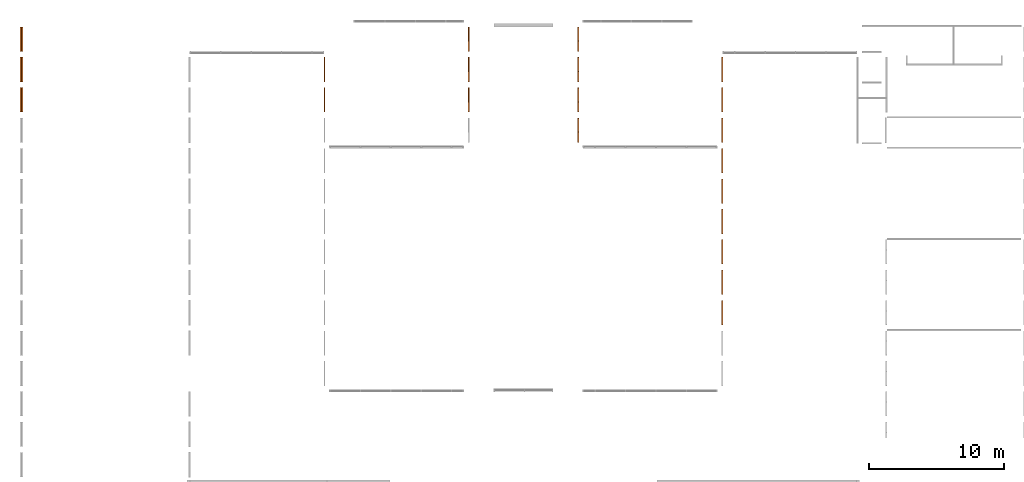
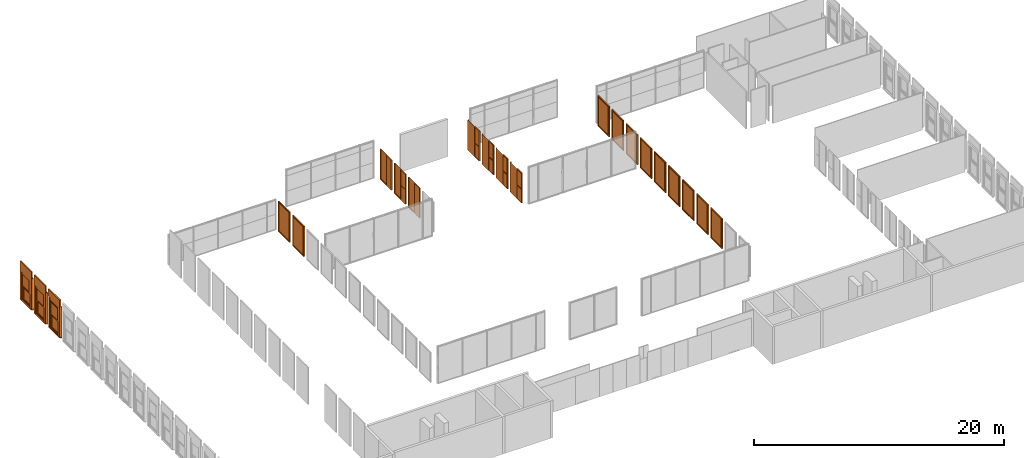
# One storey, part 14 of 15: 21 proxies.
"""IFC2X3 building model written with IfcOpenShell, lengths in millimetres."""

import ifcopenshell
import ifcopenshell.guid

model = None  # the IFC model being written
_history = None  # IfcOwnerHistory: only IFC2X3 demands one
_inside = {}  # id of a spatial element -> (the spatial element, [elements in it])
_under = {}  # id of a project, library or spatial element -> (it, [spatial elements below it])
_declared = {}  # id of a project -> (the project, [libraries it declares])
_typed = {}  # id of a type object -> (the type object, [elements of that type])
_made_of = {}  # id of a material, layer set ... -> (it, [elements and type objects made of it])


def new_model(schema):
    """Start an empty IFC model of exactly this schema.

    Asked for "IFC4X3", IfcOpenShell would pick the latest addendum, in which some entities
    have other attributes; the version numbers below select the first issue.
    IFC2X3 requires an IfcOwnerHistory on every rooted entity: one is made here for all.
    """
    global model, _history
    if schema == "IFC4X3":
        model = ifcopenshell.file(schema_version=(4, 3, 0, 0))
    else:
        model = ifcopenshell.file(schema=schema)
    _inside.clear()
    _under.clear()
    _declared.clear()
    _typed.clear()
    _made_of.clear()
    _history = None
    if model.schema == "IFC2X3":
        org = make("IfcOrganization", Name="unknown")
        user = make(
            "IfcPersonAndOrganization",
            ThePerson=make("IfcPerson", FamilyName="unknown"),
            TheOrganization=org,
        )
        app = make(
            "IfcApplication",
            ApplicationDeveloper=org,
            Version="unknown",
            ApplicationFullName="unknown",
            ApplicationIdentifier="unknown",
        )
        _history = make(
            "IfcOwnerHistory",
            OwningUser=user,
            OwningApplication=app,
            ChangeAction="ADDED",
            CreationDate=0,
        )
    return model


def make(cls, **values):
    """One entity of the class cls with the attributes given. An attribute that is None is left unset."""
    return model.create_entity(
        cls, **{name: value for name, value in values.items() if value is not None}
    )


def entity(cls, *values):
    """Any entity or typed value of the class cls, its attributes in the order of the schema. None: left unset."""
    e = model.create_entity(cls)
    for i, value in enumerate(values):
        if value is not None:
            e[i] = value
    return e


def rooted(cls, **values):
    """An entity with a GlobalId (a new one), such as an element, a storey or a relation."""
    return make(cls, GlobalId=ifcopenshell.guid.new(), OwnerHistory=_history, **values)


def si_unit(unit_type, name, prefix=None):
    """IfcSIUnit, for example si_unit("LENGTHUNIT", "METRE", prefix="MILLI")."""
    return make("IfcSIUnit", UnitType=unit_type, Prefix=prefix, Name=name)


def converted_unit(unit_type, name, factor, base, dimensions=None, offset=None):
    """IfcConversionBasedUnit, such as the inch: factor (a typed value) times the base unit."""
    return make(
        "IfcConversionBasedUnit"
        if offset is None
        else "IfcConversionBasedUnitWithOffset",
        ConversionOffset=offset,
        Dimensions=None
        if dimensions is None
        else entity("IfcDimensionalExponents", *dimensions),
        UnitType=unit_type,
        Name=name,
        ConversionFactor=make(
            "IfcMeasureWithUnit", ValueComponent=factor, UnitComponent=base
        ),
    )


def derived_unit(unit_type, elements):
    """IfcDerivedUnit: a product of units, each with its exponent."""
    return make(
        "IfcDerivedUnit",
        Elements=[
            make("IfcDerivedUnitElement", Unit=unit, Exponent=power)
            for unit, power in elements
        ],
        UnitType=unit_type,
    )


def assignment(units):
    """IfcUnitAssignment: the units of a project."""
    return None if units is None else make("IfcUnitAssignment", Units=units)


def point(xyz):
    """IfcCartesianPoint."""
    return None if xyz is None else make("IfcCartesianPoint", Coordinates=xyz)


def direction(xyz):
    """IfcDirection."""
    return None if xyz is None else make("IfcDirection", DirectionRatios=xyz)


def frame(location, z_axis=None, x_axis=None):
    """IfcAxis2Placement3D, a coordinate frame: its origin and axes. An axis left out is left unset."""
    return make(
        "IfcAxis2Placement3D",
        Location=point(location),
        Axis=direction(z_axis),
        RefDirection=direction(x_axis),
    )


def frame_2d(location, x_axis=None):
    """IfcAxis2Placement2D, a coordinate frame in the plane: its origin and x axis."""
    return make(
        "IfcAxis2Placement2D", Location=point(location), RefDirection=direction(x_axis)
    )


def origin():
    """The frame at (0, 0, 0) with its axes left unset."""
    return frame((0.0, 0.0, 0.0))


def origin_2d_with_axis():
    """The frame at (0, 0) in the plane with the x axis (1, 0) written out."""
    return frame_2d((0.0, 0.0), x_axis=(1.0, 0.0))


def place(relative_to, where):
    """IfcLocalPlacement: puts the frame where relative to a parent placement (None: the world)."""
    return make(
        "IfcLocalPlacement", PlacementRelTo=relative_to, RelativePlacement=where
    )


def context(
    kind, dimensions, precision=None, world=None, true_north=None, identifier=None
):
    """IfcGeometricRepresentationContext, for example the 3D "Model" context."""
    return make(
        "IfcGeometricRepresentationContext",
        ContextIdentifier=identifier,
        ContextType=kind,
        CoordinateSpaceDimension=dimensions,
        Precision=precision,
        WorldCoordinateSystem=world,
        TrueNorth=true_north,
    )


def subcontext(parent, identifier, kind, view, scale=None):
    """IfcGeometricRepresentationSubContext, for example "Body" below "Model"."""
    return make(
        "IfcGeometricRepresentationSubContext",
        ContextIdentifier=identifier,
        ContextType=kind,
        ParentContext=parent,
        TargetScale=scale,
        TargetView=view,
    )


def project(units=None, contexts=None):
    """IfcProject with its units and contexts."""
    return rooted(
        "IfcProject",
        Name="project",
        RepresentationContexts=contexts,
        UnitsInContext=assignment(units),
    )


def spatial(cls, under=None, at=None, **own):
    """A site, building, storey or space (cls), placed at a placement, below another one or the project."""
    s = rooted(cls, ObjectPlacement=at, **own)
    if under is not None:
        _under.setdefault(under.id(), (under, []))[1].append(s)
    return s


def polyline(points):
    """IfcPolyline through the points."""
    return make("IfcPolyline", Points=[point(p) for p in points])


def profile(cls, at=None, kind="AREA", **sizes):
    """A parametric profile (cls). Its sizes go by their IFC names, for example OverallWidth=200.0."""
    return make(cls, ProfileType=kind, Position=at, **sizes)


def rectangle(**sizes):
    """IfcRectangleProfileDef."""
    return profile("IfcRectangleProfileDef", **sizes)


def outline(outer, holes=None, kind="AREA"):
    """IfcArbitraryClosedProfileDef: a profile drawn as a closed curve; with holes, ...WithVoids."""
    if holes is None:
        return make("IfcArbitraryClosedProfileDef", ProfileType=kind, OuterCurve=outer)
    return make(
        "IfcArbitraryProfileDefWithVoids",
        ProfileType=kind,
        OuterCurve=outer,
        InnerCurves=holes,
    )


def extrude(swept, where, along, depth):
    """IfcExtrudedAreaSolid: the profile swept, set in the frame where, extruded along a direction by depth."""
    return make(
        "IfcExtrudedAreaSolid",
        SweptArea=swept,
        Position=where,
        ExtrudedDirection=direction(along),
        Depth=depth,
    )


def shape(context_of_items, identifier, shape_type, items):
    """IfcShapeRepresentation: the items that make up one representation, for example the "Body"."""
    return make(
        "IfcShapeRepresentation",
        ContextOfItems=context_of_items,
        RepresentationIdentifier=identifier,
        RepresentationType=shape_type,
        Items=items,
    )


def source(mapping_origin, context_of_items, identifier, shape_type, items):
    """IfcRepresentationMap: a shape defined once, which mapped items show again and again."""
    return make(
        "IfcRepresentationMap",
        MappingOrigin=mapping_origin,
        MappedRepresentation=shape(context_of_items, identifier, shape_type, items),
    )


def transform(
    local_origin,
    x_axis=None,
    y_axis=None,
    z_axis=None,
    scale=None,
    scale2=None,
    scale3=None,
    uniform=True,
):
    """IfcCartesianTransformationOperator3D, or its non-uniform kind. x_axis, y_axis, z_axis: its Axis1, 2, 3."""
    if uniform:
        return make(
            "IfcCartesianTransformationOperator3D",
            Axis1=direction(x_axis),
            Axis2=direction(y_axis),
            LocalOrigin=point(local_origin),
            Scale=scale,
            Axis3=direction(z_axis),
        )
    return make(
        "IfcCartesianTransformationOperator3DnonUniform",
        Axis1=direction(x_axis),
        Axis2=direction(y_axis),
        LocalOrigin=point(local_origin),
        Scale=scale,
        Axis3=direction(z_axis),
        Scale2=scale2,
        Scale3=scale3,
    )


def mapped(mapping_source, mapping_target):
    """IfcMappedItem: shows the shape of a source again, moved by a transform."""
    return make(
        "IfcMappedItem", MappingSource=mapping_source, MappingTarget=mapping_target
    )


def material(Name=None, Category=None):
    """IfcMaterial."""
    return make("IfcMaterial", Name=Name, Category=Category)


def material_list(materials):
    """IfcMaterialList."""
    return make("IfcMaterialList", Materials=materials)


def made_of(thing, what):
    """Note that an element or type object is made of a material, layer set ...; save() writes the relation."""
    if what is not None:
        _made_of.setdefault(what.id(), (what, []))[1].append(thing)
    return thing


def type_object(cls, material=None, **own):
    """A type object (cls), such as IfcWallType, which elements share."""
    return made_of(rooted(cls, **own), material)


def type_shapes(of_type, sources):
    """Give a type object the sources (RepresentationMaps) that its elements show as mapped items."""
    of_type.RepresentationMaps = sources


def element(
    cls,
    number,
    at=None,
    inside=None,
    cuts=None,
    type_object=None,
    material=None,
    context=None,
    identifier="Body",
    shape_type=None,
    held_by="IfcProductDefinitionShape",
    body=None,
    shapes=None,
    **own,
):
    """One element of the class cls, such as IfcWall. Its Tag is "e" and its number.

    at: its placement. inside: the storey or other place that contains it. cuts: it is an
    opening in that element (IfcRelVoidsElement). A single representation is given by context,
    identifier, shape_type and body (its items); several are given by shapes. held_by: the class
    of the entity that holds the representations. save() writes the other relations.
    """
    e = rooted(cls, Tag="e%d" % number, ObjectPlacement=at, **own)
    if body is not None:
        shapes = [shape(context, identifier, shape_type, body)]
    if shapes is not None:
        e.Representation = make(held_by, Representations=shapes)
    if inside is not None:
        _inside.setdefault(inside.id(), (inside, []))[1].append(e)
    if cuts is not None:
        rooted(
            "IfcRelVoidsElement", RelatingBuildingElement=cuts, RelatedOpeningElement=e
        )
    if type_object is not None:
        _typed.setdefault(type_object.id(), (type_object, []))[1].append(e)
    return made_of(e, material)


def aggregate(whole, parts):
    """IfcRelAggregates: a whole, such as a stair, and the parts it consists of."""
    return rooted("IfcRelAggregates", RelatingObject=whole, RelatedObjects=parts)


def save(model, path):
    """Write the relations noted so far, then the file.

    IfcRelAggregates (storeys below a building ...), IfcRelContainedInSpatialStructure (elements
    in a storey), IfcRelDefinesByType, IfcRelAssociatesMaterial and IfcRelDeclares: one each for
    every whole, place, type object, material and project.
    """
    for whole, parts in _under.values():
        aggregate(whole, parts)
    for where, things in _inside.values():
        rooted(
            "IfcRelContainedInSpatialStructure",
            RelatedElements=things,
            RelatingStructure=where,
        )
    for kind, things in _typed.values():
        rooted("IfcRelDefinesByType", RelatedObjects=things, RelatingType=kind)
    for what, things in _made_of.values():
        rooted("IfcRelAssociatesMaterial", RelatedObjects=things, RelatingMaterial=what)
    for by, libraries in _declared.values():
        rooted("IfcRelDeclares", RelatingContext=by, RelatedDefinitions=libraries)
    model.write(path)


model = new_model("IFC2X3")

# Units and contexts
model_context = context("Model", 3, precision=0.01, world=origin(), true_north=direction((6.12303176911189e-17, 1.0)))
body_context = subcontext(model_context, "Body", "Model", "MODEL_VIEW")
ifc_project = project(units=[si_unit("LENGTHUNIT", "METRE", prefix="MILLI"), si_unit("AREAUNIT", "SQUARE_METRE"), si_unit("VOLUMEUNIT", "CUBIC_METRE"), converted_unit("PLANEANGLEUNIT", "DEGREE", entity("IfcRatioMeasure", 0.0174532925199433), si_unit("PLANEANGLEUNIT", "RADIAN"), dimensions=[0, 0, 0, 0, 0, 0, 0]), si_unit("MASSUNIT", "GRAM", prefix="KILO"), derived_unit("MASSDENSITYUNIT", [(si_unit("MASSUNIT", "GRAM", prefix="KILO"), 1), (si_unit("LENGTHUNIT", "METRE"), -3)]), derived_unit("MOMENTOFINERTIAUNIT", [(si_unit("LENGTHUNIT", "METRE"), 4)]), si_unit("TIMEUNIT", "SECOND"), si_unit("FREQUENCYUNIT", "HERTZ"), si_unit("THERMODYNAMICTEMPERATUREUNIT", "DEGREE_CELSIUS"), derived_unit("THERMALTRANSMITTANCEUNIT", [(si_unit("MASSUNIT", "GRAM", prefix="KILO"), 1), (si_unit("THERMODYNAMICTEMPERATUREUNIT", "KELVIN"), -1), (si_unit("TIMEUNIT", "SECOND"), -3)]), derived_unit("VOLUMETRICFLOWRATEUNIT", [(si_unit("LENGTHUNIT", "METRE"), 3), (si_unit("TIMEUNIT", "SECOND"), -1)]), si_unit("ELECTRICCURRENTUNIT", "AMPERE"), si_unit("ELECTRICVOLTAGEUNIT", "VOLT"), si_unit("POWERUNIT", "WATT"), si_unit("FORCEUNIT", "NEWTON", prefix="KILO"), si_unit("ILLUMINANCEUNIT", "LUX"), si_unit("LUMINOUSFLUXUNIT", "LUMEN"), si_unit("LUMINOUSINTENSITYUNIT", "CANDELA"), derived_unit("USERDEFINED", [(si_unit("MASSUNIT", "GRAM", prefix="KILO"), -1), (si_unit("LENGTHUNIT", "METRE"), -2), (si_unit("TIMEUNIT", "SECOND"), 3), (si_unit("LUMINOUSFLUXUNIT", "LUMEN"), 1)]), derived_unit("LINEARVELOCITYUNIT", [(si_unit("LENGTHUNIT", "METRE"), 1), (si_unit("TIMEUNIT", "SECOND"), -1)]), si_unit("PRESSUREUNIT", "PASCAL"), derived_unit("USERDEFINED", [(si_unit("LENGTHUNIT", "METRE"), -2), (si_unit("MASSUNIT", "GRAM", prefix="KILO"), 1), (si_unit("TIMEUNIT", "SECOND"), -2)]), derived_unit("LINEARFORCEUNIT", [(si_unit("MASSUNIT", "GRAM", prefix="KILO"), 1), (si_unit("LENGTHUNIT", "METRE"), 1), (si_unit("TIMEUNIT", "SECOND"), -2), (si_unit("LENGTHUNIT", "METRE"), -1)]), derived_unit("PLANARFORCEUNIT", [(si_unit("MASSUNIT", "GRAM", prefix="KILO"), 1), (si_unit("LENGTHUNIT", "METRE"), 1), (si_unit("TIMEUNIT", "SECOND"), -2), (si_unit("LENGTHUNIT", "METRE"), -2)])], contexts=[model_context])

# Site, building, storey
site_placement = place(None, frame((10627.5135316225, 21939.0796949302, 0.0)))
site = spatial("IfcSite", under=ifc_project, at=site_placement, Name="Default", CompositionType="ELEMENT")
building_placement = place(site_placement, origin())
building = spatial("IfcBuilding", under=site, at=building_placement, CompositionType="ELEMENT")
storey_placement = place(building_placement, origin())
storey = spatial("IfcBuildingStorey", under=building, at=storey_placement, Name="RDC", CompositionType="ELEMENT", Elevation=0.0)

# Proxies
ifc_material_1 = material(Name="PVC, Flexible")
ifc_material_2 = material(Name="Glass")
ifc_material_list_1 = material_list([ifc_material_1, ifc_material_2])
building_element_proxy_type_1 = type_object("IfcBuildingElementProxyType", Name="FENETRE.dwg:Fenetre ext 296+70", PredefinedType="NOTDEFINED", material=ifc_material_1)
shared_shape_1 = source(origin(), body_context, "Body", "SweptSolid", [
    extrude(rectangle(XDim=1829.99999999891, YDim=112.500043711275, at=origin_2d_with_axis()), frame((-10.4189092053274, 56.2500218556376, 2960.0), z_axis=(0.0, 0.0, 1.0), x_axis=(-1.0, 0.0, 0.0)), (0.0, 0.0, 1.0), 700.0),
    extrude(outline(polyline([(-68.5678005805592, -14.3879872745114), (-72.4883397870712, -33.9999574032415), (-67.5853472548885, -34.9800922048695), (-63.9024543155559, -16.5569155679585), (44.3087537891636, -16.5569155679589), (54.1101018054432, 32.4730097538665), (40.6268723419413, 35.1683804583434), (40.1368049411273, 32.7168841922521), (51.168538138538, 30.5115808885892), (42.1928709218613, -14.3879872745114), (-68.5678005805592, -14.3879872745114)])), frame((-925.418909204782, 66.917049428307, -47.5499763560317), z_axis=(-1.0, 0.0, 0.0), x_axis=(0.0, 0.980598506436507, -0.196026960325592)), (0.0, 0.0, -1.0), 1829.99999999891),
    extrude(outline(polyline([(-64.667066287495, -56.2500218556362), (66.1666874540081, -56.2500218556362), (66.1666874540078, 56.2500218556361), (-67.6663086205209, 56.2500218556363), (-64.667066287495, -56.2500218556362)])), frame((-925.418909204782, -56.2500218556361, -63.833312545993), z_axis=(1.0, 0.0, 0.0), x_axis=(0.0, 0.0, -1.0)), (0.0, 0.0, 1.0), 1829.99999999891),
    extrude(outline(polyline([(-55.5555555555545, 97.0007159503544), (-55.5555555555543, -5.85738417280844), (-55.5555555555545, -95.357341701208), (-45.5555555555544, -95.3573417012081), (-45.5555555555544, -105.357341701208), (174.444444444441, -105.357341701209), (174.444444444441, 106.642659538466), (-45.5555555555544, 106.642659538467), (-45.5555555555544, 97.0007159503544), (-55.5555555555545, 97.0007159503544)])), frame((849.025535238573, 5.85738417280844, 0.0), z_axis=(0.0, 0.0, -1.0), x_axis=(-1.0, 0.0, 0.0)), (0.0, 0.0, -1.0), 2960.0),
    extrude(rectangle(XDim=199.499957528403, YDim=1369.99999999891, at=origin_2d_with_axis()), frame((-10.4189092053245, 0.250021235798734, 2730.0), z_axis=(0.0, 0.0, 1.0), x_axis=(0.0, 1.0, 0.0)), (0.0, 0.0, 1.0), 230.000000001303),
    extrude(outline(polyline([(-97.0007159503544, -55.5555555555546), (5.85738417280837, -55.5555555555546), (95.357341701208, -55.5555555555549), (95.357341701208, -45.5555555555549), (105.357341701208, -45.5555555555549), (105.357341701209, 174.44444444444), (-106.642659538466, 174.444444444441), (-106.642659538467, -45.5555555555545), (-97.0007159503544, -45.5555555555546), (-97.0007159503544, -55.5555555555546)])), frame((-869.863353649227, 5.85738417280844, 0.0), z_axis=(0.0, 0.0, 1.0), x_axis=(0.0, -1.0, 0.0)), (0.0, 0.0, 1.0), 2960.0),
    extrude(rectangle(XDim=1.0, YDim=1079.99999999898, at=origin_2d_with_axis()), frame((-10.4189092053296, -19.5, 130.0), z_axis=(0.0, 0.0, 1.0), x_axis=(0.0, 1.0, 0.0)), (0.0, 0.0, 1.0), 1120.00000000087),
    extrude(rectangle(XDim=1.0, YDim=1079.99999999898, at=frame_2d((-4.21884749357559e-15, 0.0), x_axis=(1.0, 0.0))), frame((-10.4189092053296, -30.5, 130.0), z_axis=(0.0, 0.0, 1.0), x_axis=(0.0, 1.0, 0.0)), (0.0, 0.0, 1.0), 1120.00000000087),
    extrude(rectangle(XDim=1.0, YDim=1079.99999999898, at=frame_2d((-4.21884749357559e-15, 0.0), x_axis=(1.0, 0.0))), frame((-10.4189092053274, 69.5, 1465.0), z_axis=(0.0, 0.0, 1.0), x_axis=(0.0, 1.0, 0.0)), (0.0, 0.0, 1.0), 1120.0),
    extrude(rectangle(XDim=0.999999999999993, YDim=1079.99999999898, at=frame_2d((-8.46545056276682e-15, 0.0), x_axis=(1.0, 0.0))), frame((-10.4189092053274, 80.5, 1465.0), z_axis=(0.0, 0.0, 1.0), x_axis=(0.0, 1.0, 0.0)), (0.0, 0.0, 1.0), 1120.00000000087),
    extrude(outline(polyline([(-685.0, -1365.0), (0.0, -1365.0), (685.0, -1365.0), (685.0, 1365.0), (0.0, 1365.0), (-685.0, 1365.0), (-685.0, -1365.0)]), holes=[polyline([(-640.0, -1320.0), (-640.0, -45.0), (0.0, -45.0), (640.0, -45.0), (640.0, -1320.0), (0.0, -1320.0), (-640.0, -1320.0)]), polyline([(-640.0, 40.0), (-640.0, 1315.0), (0.0, 1315.0), (640.0, 1315.0), (640.0, 40.0), (0.0, 40.0), (-640.0, 40.0)])]), frame((-10.4189092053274, 0.0, 1365.0), z_axis=(0.0, 1.0, 0.0), x_axis=(1.0, 0.0, 0.0)), (0.0, 0.0, 1.0), 50.0),
    extrude(outline(polyline([(-655.0, -667.500000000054), (655.0, -667.500000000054), (655.0, 667.500000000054), (-655.0, 667.500000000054), (-655.0, -667.500000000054)]), holes=[polyline([(-540.0, 552.500000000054), (540.0, 552.500000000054), (540.0, -567.500000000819), (-540.0, -567.500000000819), (-540.0, 552.500000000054)])]), frame((-10.4189092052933, -50.0, 697.500000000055), z_axis=(0.0, 1.0, 0.0), x_axis=(-1.0, 0.0, 0.0)), (0.0, 0.0, 1.0), 50.0),
    extrude(outline(polyline([(-655.0, -667.500000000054), (655.0, -667.500000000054), (655.0, 667.500000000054), (-655.0, 667.500000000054), (-655.0, -667.500000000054)]), holes=[polyline([(-540.0, 552.500000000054), (540.0, 552.500000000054), (540.0, -567.500000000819), (-540.0, -567.500000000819), (-540.0, 552.500000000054)])]), frame((-10.4189092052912, 50.0, 2032.50000000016), z_axis=(0.0, 1.0, 0.0), x_axis=(-1.0, 0.0, 0.0)), (0.0, 0.0, 1.0), 50.0),
])
type_shapes(building_element_proxy_type_1, [shared_shape_1])
proxy_1_placement = place(storey_placement, frame((-10728.9017825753, 15361.3392142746, 0.0), z_axis=(0.0, 0.0, 1.0), x_axis=(0.0, 1.0, 0.0)))
element("IfcBuildingElementProxy", 1, at=proxy_1_placement, inside=storey, type_object=building_element_proxy_type_1, material=ifc_material_list_1, Name="FENETRE.dwg:Fenetre ext 296+70", ObjectType="FENETRE.dwg:Fenetre ext 296+70", context=body_context, shape_type="MappedRepresentation", body=[
    mapped(shared_shape_1, transform((0.0, 0.0, 0.0), scale=1.0)),
])
ifc_material_list_2 = material_list([ifc_material_1, ifc_material_2])
proxy_2_placement = place(storey_placement, frame((-10728.9017825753, 13101.3392142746, 0.0), z_axis=(0.0, 0.0, 1.0), x_axis=(0.0, 1.0, 0.0)))
element("IfcBuildingElementProxy", 2, at=proxy_2_placement, inside=storey, type_object=building_element_proxy_type_1, material=ifc_material_list_2, Name="FENETRE.dwg:Fenetre ext 296+70", ObjectType="FENETRE.dwg:Fenetre ext 296+70", context=body_context, shape_type="MappedRepresentation", body=[
    mapped(shared_shape_1, transform((0.0, 0.0, 0.0), scale=1.0)),
])
ifc_material_list_3 = material_list([ifc_material_1, ifc_material_2])
proxy_3_placement = place(storey_placement, frame((-10728.9017825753, 10841.3392142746, 0.0), z_axis=(0.0, 0.0, 1.0), x_axis=(0.0, 1.0, 0.0)))
element("IfcBuildingElementProxy", 3, at=proxy_3_placement, inside=storey, type_object=building_element_proxy_type_1, material=ifc_material_list_3, Name="FENETRE.dwg:Fenetre ext 296+70", ObjectType="FENETRE.dwg:Fenetre ext 296+70", context=body_context, shape_type="MappedRepresentation", body=[
    mapped(shared_shape_1, transform((0.0, 0.0, 0.0), scale=1.0)),
])
ifc_material_3 = material(Name="Softwood, Finish Black")
ifc_material_list_4 = material_list([ifc_material_2, ifc_material_3])
building_element_proxy_type_2 = type_object("IfcBuildingElementProxyType", Name="Cloisin vitre bois vitrage P-F 3-4H 498x296:Cloisin vitre bois vitrage P-F 3-4H 498x296", PredefinedType="NOTDEFINED", material=ifc_material_2)
shared_shape_2 = source(origin(), body_context, "Body", "SweptSolid", [
    extrude(rectangle(XDim=4.96346169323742, YDim=1750.0, at=frame_2d((-4.21884749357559e-15, 1.13686837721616e-13), x_axis=(1.0, 0.0))), frame((0.0, -47.4817308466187, 40.0), z_axis=(0.0, 0.0, 1.0), x_axis=(0.0, 1.0, 0.0)), (0.0, 0.0, 1.0), 2880.0),
    extrude(rectangle(XDim=5.0, YDim=1750.0, at=frame_2d((-1.99840144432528e-15, 1.13686837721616e-13), x_axis=(1.0, 0.0))), frame((0.0, -32.5, 40.0), z_axis=(0.0, 0.0, 1.0), x_axis=(0.0, 1.0, 0.0)), (0.0, 0.0, 1.0), 2880.0),
    extrude(rectangle(XDim=5.0, YDim=1750.0, at=frame_2d((-1.99840144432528e-15, 1.13686837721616e-13), x_axis=(1.0, 0.0))), frame((0.0, -32.5, 40.0), z_axis=(0.0, 0.0, 1.0), x_axis=(0.0, 1.0, 0.0)), (0.0, 0.0, 1.0), 2880.0),
    extrude(outline(polyline([(-1440.0, -875.0), (1440.0, -875.0), (1440.0, 875.0), (-1440.0, 875.0), (-1440.0, -875.0)]), holes=[polyline([(1400.0, 835.0), (1400.0, -783.916998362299), (-1400.0, -783.916998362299), (-1400.0, 835.0), (1400.0, 835.0)])]), frame((0.0, -100.0, 1480.0), z_axis=(0.0, 1.0, 0.0), x_axis=(0.0, 0.0, -1.0)), (0.0, 0.0, 1.0), 50.0365383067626),
    extrude(outline(polyline([(-1480.0, -915.0), (1480.0, -915.0), (1480.0, 915.0), (-1480.0, 915.0), (-1480.0, -915.0)]), holes=[polyline([(-1440.0, -875.0), (-1440.0, 875.0), (1440.0, 875.0), (1440.0, -875.0), (-1440.0, -875.0)])]), frame((0.0, -100.0, 1480.0), z_axis=(0.0, 1.0, 0.0), x_axis=(0.0, 0.0, -1.0)), (0.0, 0.0, 1.0), 70.0),
    extrude(outline(polyline([(-1480.0, -915.0), (1480.0, -915.0), (1480.0, 0.0), (1480.0, 915.0), (-1480.0, 915.0), (-1480.0, 0.0), (-1480.0, -915.0)]), holes=[polyline([(1400.0, 0.0), (1400.0, -835.0), (-1400.0, -835.0), (-1400.0, 0.0), (-1400.0, 835.0), (1400.0, 835.0), (1400.0, 0.0)])]), frame((0.0, -30.0, 1480.0), z_axis=(0.0, 1.0, 0.0), x_axis=(0.0, 0.0, 1.0)), (0.0, 0.0, 1.0), 30.0),
])
type_shapes(building_element_proxy_type_2, [shared_shape_2])
proxy_4_placement = place(storey_placement, frame((41406.8614683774, 13090.9203050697, 0.0), z_axis=(0.0, 0.0, 1.0), x_axis=(0.0, -1.0, 0.0)))
element("IfcBuildingElementProxy", 4, at=proxy_4_placement, inside=storey, type_object=building_element_proxy_type_2, material=ifc_material_list_4, Name="Cloisin vitre bois vitrage P-F 3-4H 498x296:Cloisin vitre bois vitrage P-F 3-4H 498x296", ObjectType="Cloisin vitre bois vitrage P-F 3-4H 498x296:Cloisin vitre bois vitrage P-F 3-4H 498x296", context=body_context, shape_type="MappedRepresentation", body=[
    mapped(shared_shape_2, transform((0.0, 0.0, 0.0), scale=1.0)),
])
ifc_material_list_5 = material_list([ifc_material_2, ifc_material_3])
proxy_5_placement = place(storey_placement, frame((41406.8614683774, 10830.9203050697, 0.0), z_axis=(0.0, 0.0, 1.0), x_axis=(0.0, -1.0, 0.0)))
element("IfcBuildingElementProxy", 5, at=proxy_5_placement, inside=storey, type_object=building_element_proxy_type_2, material=ifc_material_list_5, Name="Cloisin vitre bois vitrage P-F 3-4H 498x296:Cloisin vitre bois vitrage P-F 3-4H 498x296", ObjectType="Cloisin vitre bois vitrage P-F 3-4H 498x296:Cloisin vitre bois vitrage P-F 3-4H 498x296", context=body_context, shape_type="MappedRepresentation", body=[
    mapped(shared_shape_2, transform((0.0, 0.0, 0.0), scale=1.0)),
])
ifc_material_list_6 = material_list([ifc_material_2, ifc_material_3])
proxy_6_placement = place(storey_placement, frame((41406.8614683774, 8570.92030506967, 0.0), z_axis=(0.0, 0.0, 1.0), x_axis=(0.0, -1.0, 0.0)))
element("IfcBuildingElementProxy", 6, at=proxy_6_placement, inside=storey, type_object=building_element_proxy_type_2, material=ifc_material_list_6, Name="Cloisin vitre bois vitrage P-F 3-4H 498x296:Cloisin vitre bois vitrage P-F 3-4H 498x296", ObjectType="Cloisin vitre bois vitrage P-F 3-4H 498x296:Cloisin vitre bois vitrage P-F 3-4H 498x296", context=body_context, shape_type="MappedRepresentation", body=[
    mapped(shared_shape_2, transform((0.0, 0.0, 0.0), scale=1.0)),
])
ifc_material_list_7 = material_list([ifc_material_2, ifc_material_3])
proxy_7_placement = place(storey_placement, frame((41406.8614683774, 6310.92030506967, 0.0), z_axis=(0.0, 0.0, 1.0), x_axis=(0.0, -1.0, 0.0)))
element("IfcBuildingElementProxy", 7, at=proxy_7_placement, inside=storey, type_object=building_element_proxy_type_2, material=ifc_material_list_7, Name="Cloisin vitre bois vitrage P-F 3-4H 498x296:Cloisin vitre bois vitrage P-F 3-4H 498x296", ObjectType="Cloisin vitre bois vitrage P-F 3-4H 498x296:Cloisin vitre bois vitrage P-F 3-4H 498x296", context=body_context, shape_type="MappedRepresentation", body=[
    mapped(shared_shape_2, transform((0.0, 0.0, 0.0), scale=1.0)),
])
ifc_material_list_8 = material_list([ifc_material_2, ifc_material_3])
proxy_8_placement = place(storey_placement, frame((41406.8614683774, 4050.92030506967, 0.0), z_axis=(0.0, 0.0, 1.0), x_axis=(0.0, -1.0, 0.0)))
element("IfcBuildingElementProxy", 8, at=proxy_8_placement, inside=storey, type_object=building_element_proxy_type_2, material=ifc_material_list_8, Name="Cloisin vitre bois vitrage P-F 3-4H 498x296:Cloisin vitre bois vitrage P-F 3-4H 498x296", ObjectType="Cloisin vitre bois vitrage P-F 3-4H 498x296:Cloisin vitre bois vitrage P-F 3-4H 498x296", context=body_context, shape_type="MappedRepresentation", body=[
    mapped(shared_shape_2, transform((0.0, 0.0, 0.0), scale=1.0)),
])
ifc_material_list_9 = material_list([ifc_material_2, ifc_material_3])
proxy_9_placement = place(storey_placement, frame((41406.8614683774, 1790.92030506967, 0.0), z_axis=(0.0, 0.0, 1.0), x_axis=(0.0, -1.0, 0.0)))
element("IfcBuildingElementProxy", 9, at=proxy_9_placement, inside=storey, type_object=building_element_proxy_type_2, material=ifc_material_list_9, Name="Cloisin vitre bois vitrage P-F 3-4H 498x296:Cloisin vitre bois vitrage P-F 3-4H 498x296", ObjectType="Cloisin vitre bois vitrage P-F 3-4H 498x296:Cloisin vitre bois vitrage P-F 3-4H 498x296", context=body_context, shape_type="MappedRepresentation", body=[
    mapped(shared_shape_2, transform((0.0, 0.0, 0.0), scale=1.0)),
])
ifc_material_list_10 = material_list([ifc_material_2, ifc_material_3])
proxy_10_placement = place(storey_placement, frame((41406.8614683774, -469.079694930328, 0.0), z_axis=(0.0, 0.0, 1.0), x_axis=(0.0, -1.0, 0.0)))
element("IfcBuildingElementProxy", 10, at=proxy_10_placement, inside=storey, type_object=building_element_proxy_type_2, material=ifc_material_list_10, Name="Cloisin vitre bois vitrage P-F 3-4H 498x296:Cloisin vitre bois vitrage P-F 3-4H 498x296", ObjectType="Cloisin vitre bois vitrage P-F 3-4H 498x296:Cloisin vitre bois vitrage P-F 3-4H 498x296", context=body_context, shape_type="MappedRepresentation", body=[
    mapped(shared_shape_2, transform((0.0, 0.0, 0.0), scale=1.0)),
])
ifc_material_list_11 = material_list([ifc_material_2, ifc_material_3])
proxy_11_placement = place(storey_placement, frame((41406.8614683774, -2729.07969493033, 0.0), z_axis=(0.0, 0.0, 1.0), x_axis=(0.0, -1.0, 0.0)))
element("IfcBuildingElementProxy", 11, at=proxy_11_placement, inside=storey, type_object=building_element_proxy_type_2, material=ifc_material_list_11, Name="Cloisin vitre bois vitrage P-F 3-4H 498x296:Cloisin vitre bois vitrage P-F 3-4H 498x296", ObjectType="Cloisin vitre bois vitrage P-F 3-4H 498x296:Cloisin vitre bois vitrage P-F 3-4H 498x296", context=body_context, shape_type="MappedRepresentation", body=[
    mapped(shared_shape_2, transform((0.0, 0.0, 0.0), scale=1.0)),
])
ifc_material_list_12 = material_list([ifc_material_2, ifc_material_3])
proxy_12_placement = place(storey_placement, frame((41406.8614683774, -4989.07969493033, 0.0), z_axis=(0.0, 0.0, 1.0), x_axis=(0.0, -1.0, 0.0)))
element("IfcBuildingElementProxy", 12, at=proxy_12_placement, inside=storey, type_object=building_element_proxy_type_2, material=ifc_material_list_12, Name="Cloisin vitre bois vitrage P-F 3-4H 498x296:Cloisin vitre bois vitrage P-F 3-4H 498x296", ObjectType="Cloisin vitre bois vitrage P-F 3-4H 498x296:Cloisin vitre bois vitrage P-F 3-4H 498x296", context=body_context, shape_type="MappedRepresentation", body=[
    mapped(shared_shape_2, transform((0.0, 0.0, 0.0), scale=1.0)),
])
ifc_material_list_13 = material_list([ifc_material_2, ifc_material_3])
building_element_proxy_type_3 = type_object("IfcBuildingElementProxyType", Name="Cloisin vitre bois vitrage P-F 3-4H 498x296:Cloisin vitre bois vitrage P-F 3-4H 498x296", PredefinedType="NOTDEFINED", material=ifc_material_2)
shared_shape_3 = source(origin(), body_context, "Body", "SweptSolid", [
    extrude(rectangle(XDim=1750.0, YDim=4.96346169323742, at=frame_2d((0.0, -4.21884749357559e-15), x_axis=(1.0, 0.0))), frame((0.0, 47.4817308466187, 40.0), z_axis=(0.0, 0.0, 1.0), x_axis=(-1.0, 0.0, 0.0)), (0.0, 0.0, 1.0), 2880.0),
    extrude(rectangle(XDim=1750.0, YDim=5.0, at=frame_2d((0.0, 1.99840144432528e-15), x_axis=(1.0, 0.0))), frame((0.0, 32.5, 40.0), z_axis=(0.0, 0.0, 1.0), x_axis=(-1.0, 0.0, 0.0)), (0.0, 0.0, 1.0), 2880.0),
    extrude(rectangle(XDim=1750.0, YDim=5.0, at=frame_2d((0.0, 1.99840144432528e-15), x_axis=(1.0, 0.0))), frame((0.0, 32.5, 40.0), z_axis=(0.0, 0.0, 1.0), x_axis=(-1.0, 0.0, 0.0)), (0.0, 0.0, 1.0), 2880.0),
    extrude(outline(polyline([(-1440.0, -875.0), (1440.0, -875.0), (1440.0, 875.0), (-1440.0, 875.0), (-1440.0, -875.0)]), holes=[polyline([(1400.0, 835.0), (1400.0, -783.916998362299), (-1400.0, -783.916998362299), (-1400.0, 835.0), (1400.0, 835.0)])]), frame((0.0, 49.9634616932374, 1480.0), z_axis=(0.0, 1.0, 0.0), x_axis=(0.0, 0.0, -1.0)), (0.0, 0.0, 1.0), 50.0365383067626),
    extrude(outline(polyline([(-1480.0, -915.0), (1480.0, -915.0), (1480.0, 915.0), (-1480.0, 915.0), (-1480.0, -915.0)]), holes=[polyline([(-1440.0, -875.0), (-1440.0, 875.0), (1440.0, 875.0), (1440.0, -875.0), (-1440.0, -875.0)])]), frame((0.0, 30.0, 1480.0), z_axis=(0.0, 1.0, 0.0), x_axis=(0.0, 0.0, -1.0)), (0.0, 0.0, 1.0), 70.0),
    extrude(outline(polyline([(-1480.0, -915.0), (1480.0, -915.0), (1480.0, 0.0), (1480.0, 915.0), (-1480.0, 915.0), (-1480.0, 0.0), (-1480.0, -915.0)]), holes=[polyline([(1400.0, 0.0), (1400.0, -835.0), (-1400.0, -835.0), (-1400.0, 0.0), (-1400.0, 835.0), (1400.0, 835.0), (1400.0, 0.0)])]), frame((0.0, 0.0, 1480.0), z_axis=(0.0, 1.0, 0.0), x_axis=(0.0, 0.0, 1.0)), (0.0, 0.0, 1.0), 30.0),
])
type_shapes(building_element_proxy_type_3, [shared_shape_3])
proxy_13_placement = place(storey_placement, frame((11748.1114683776, 13090.9203050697, 0.0), z_axis=(0.0, 0.0, 1.0), x_axis=(0.0, -1.0, 0.0)))
element("IfcBuildingElementProxy", 13, at=proxy_13_placement, inside=storey, type_object=building_element_proxy_type_3, material=ifc_material_list_13, Name="Cloisin vitre bois vitrage P-F 3-4H 498x296:Cloisin vitre bois vitrage P-F 3-4H 498x296", ObjectType="Cloisin vitre bois vitrage P-F 3-4H 498x296:Cloisin vitre bois vitrage P-F 3-4H 498x296", context=body_context, shape_type="MappedRepresentation", body=[
    mapped(shared_shape_3, transform((0.0, 0.0, 0.0), scale=1.0)),
])
ifc_material_list_14 = material_list([ifc_material_2, ifc_material_3])
proxy_14_placement = place(storey_placement, frame((11748.1114683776, 10830.9203050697, 0.0), z_axis=(0.0, 0.0, 1.0), x_axis=(0.0, -1.0, 0.0)))
element("IfcBuildingElementProxy", 14, at=proxy_14_placement, inside=storey, type_object=building_element_proxy_type_3, material=ifc_material_list_14, Name="Cloisin vitre bois vitrage P-F 3-4H 498x296:Cloisin vitre bois vitrage P-F 3-4H 498x296", ObjectType="Cloisin vitre bois vitrage P-F 3-4H 498x296:Cloisin vitre bois vitrage P-F 3-4H 498x296", context=body_context, shape_type="MappedRepresentation", body=[
    mapped(shared_shape_3, transform((0.0, 0.0, 0.0), scale=1.0)),
])
ifc_material_4 = material(Name="Plywood, Sheathing")
ifc_material_list_15 = material_list([ifc_material_4, ifc_material_2])
building_element_proxy_type_4 = type_object("IfcBuildingElementProxyType", Name="Porte noire:Porte noire", PredefinedType="NOTDEFINED", material=ifc_material_4)
shared_shape_4 = source(origin(), body_context, "Body", "SweptSolid", [
    extrude(rectangle(XDim=100.0, YDim=23.0000000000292, at=origin_2d_with_axis()), frame((-950.918997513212, -50.0, 8.73189890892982), z_axis=(0.0, 0.0, 1.0), x_axis=(0.0, 1.0, 0.0)), (0.0, 0.0, 1.0), 2933.34951039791),
    extrude(rectangle(XDim=19.0, YDim=1038.0, at=frame_2d((7.99360577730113e-15, 0.0), x_axis=(1.0, 0.0))), frame((-420.418997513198, -87.5, 43.7318989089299), z_axis=(0.0, 0.0, 1.0), x_axis=(0.0, 1.0, 0.0)), (0.0, 0.0, 1.0), 2898.5),
    extrude(rectangle(XDim=100.0, YDim=1775.0, at=origin_2d_with_axis()), frame((-51.9189975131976, -50.0, 8.73189890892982), z_axis=(0.0, 0.0, 1.0), x_axis=(0.0, 1.0, 0.0)), (0.0, 0.0, 1.0), 35.0000000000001),
    extrude(rectangle(XDim=100.0, YDim=35.0000000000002, at=origin_2d_with_axis()), frame((853.081002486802, -50.0, 8.73189890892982), z_axis=(0.0, 0.0, 1.0), x_axis=(0.0, 1.0, 0.0)), (0.0, 0.0, 1.0), 2898.5),
    extrude(rectangle(XDim=100.0, YDim=740.0, at=origin_2d_with_axis()), frame((500.581002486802, -50.0, 2907.23189890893), z_axis=(0.0, 0.0, 1.0), x_axis=(0.0, 1.0, 0.0)), (0.0, 0.0, 1.0), 35.0000000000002),
    extrude(rectangle(XDim=100.0, YDim=31.9999999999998, at=origin_2d_with_axis()), frame((114.581002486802, -50.0, 43.7318989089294), z_axis=(0.0, 0.0, 1.0), x_axis=(0.0, 1.0, 0.0)), (0.0, 0.0, 1.0), 2898.5),
    extrude(rectangle(XDim=100.0, YDim=705.0, at=origin_2d_with_axis()), frame((483.081002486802, -50.0, 1343.73189890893), z_axis=(0.0, 0.0, 1.0), x_axis=(0.0, 1.0, 0.0)), (0.0, 0.0, 1.0), 55.0),
    extrude(outline(polyline([(-352.5, -650.0), (352.5, -650.0), (352.5, 650.0), (-352.5, 650.0), (-352.5, -650.0)]), holes=[polyline([(342.5, 640.0), (342.5, -640.0), (-342.5, -640.0), (-342.5, 640.0), (342.5, 640.0)])]), frame((483.081002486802, -80.0, 693.73189890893), z_axis=(0.0, 1.0, 0.0), x_axis=(1.0, 0.0, 0.0)), (0.0, 0.0, 1.0), 70.0),
    extrude(outline(polyline([(-754.25, -352.5), (754.25, -352.5), (754.25, 352.5), (-754.25, 352.5), (-754.25, -352.5)]), holes=[polyline([(744.25, 342.5), (744.25, -342.5), (-744.25, -342.5), (-744.25, 342.5), (744.25, 342.5)])]), frame((483.081002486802, -80.0, 2152.98189890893), z_axis=(0.0, 1.0, 0.0), x_axis=(0.0, 0.0, 1.0)), (0.0, 0.0, 1.0), 70.0),
    extrude(outline(polyline([(-640.0, -342.5), (640.0, -342.5), (640.0, 342.5), (-640.0, 342.5), (-640.0, -342.5)]), holes=[polyline([(630.0, 332.5), (630.0, -332.5), (-630.0, -332.5), (-630.0, 332.5), (630.0, 332.5)])]), frame((483.081002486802, -81.0, 693.731898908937), z_axis=(0.0, 1.0, 0.0), x_axis=(0.0, 0.0, 1.0)), (0.0, 0.0, 1.0), 3.99999999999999),
    extrude(outline(polyline([(-744.25, -342.5), (744.25, -342.5), (744.25, 342.5), (-744.25, 342.5), (-744.25, -342.5)]), holes=[polyline([(734.25, 332.5), (734.25, -332.5), (-734.25, -332.5), (-734.25, 332.5), (734.25, 332.5)])]), frame((483.081002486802, -81.0, 2152.98189890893), z_axis=(0.0, 1.0, 0.0), x_axis=(0.0, 0.0, 1.0)), (0.0, 0.0, 1.0), 3.99999999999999),
    extrude(outline(polyline([(-640.0, -342.5), (640.0, -342.5), (640.0, 342.5), (-640.0, 342.5), (-640.0, -342.5)]), holes=[polyline([(630.0, 332.5), (630.0, -332.5), (-630.0, -332.5), (-630.0, 332.5), (630.0, 332.5)])]), frame((483.081002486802, -15.0, 693.782575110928), z_axis=(0.0, 1.0, 0.0), x_axis=(0.0, 0.0, 1.0)), (0.0, 0.0, 1.0), 5.0),
    extrude(outline(polyline([(-744.25, -342.5), (744.25, -342.5), (744.25, 342.5), (-744.25, 342.5), (-744.25, -342.5)]), holes=[polyline([(734.25, 332.5), (734.25, -332.5), (-734.25, -332.5), (-734.25, 332.5), (734.25, 332.5)])]), frame((483.081002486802, -15.0, 2153.03257511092), z_axis=(0.0, 1.0, 0.0), x_axis=(0.0, 0.0, 1.0)), (0.0, 0.0, 1.0), 5.0),
    extrude(rectangle(XDim=2.0, YDim=665.0, at=frame_2d((8.43769498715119e-15, 0.0), x_axis=(1.0, 0.0))), frame((483.081002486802, -79.0, 1418.73189890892), z_axis=(0.0, 0.0, 1.0), x_axis=(0.0, 1.0, 0.0)), (0.0, 0.0, 1.0), 1468.50000000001),
    extrude(rectangle(XDim=2.0, YDim=665.0, at=frame_2d((8.43769498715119e-15, 0.0), x_axis=(1.0, 0.0))), frame((483.081002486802, -79.0, 63.7318989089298), z_axis=(0.0, 0.0, 1.0), x_axis=(0.0, 1.0, 0.0)), (0.0, 0.0, 1.0), 1260.0),
    extrude(rectangle(XDim=2.0, YDim=665.0, at=frame_2d((1.0547118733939e-15, 0.0), x_axis=(1.0, 0.0))), frame((483.081002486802, -13.0, 1418.78257511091), z_axis=(0.0, 0.0, 1.0), x_axis=(0.0, 1.0, 0.0)), (0.0, 0.0, 1.0), 1468.50000000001),
    extrude(rectangle(XDim=2.0, YDim=665.0, at=frame_2d((1.0547118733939e-15, 0.0), x_axis=(1.0, 0.0))), frame((483.081002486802, -13.0, 63.7825751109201), z_axis=(0.0, 0.0, 1.0), x_axis=(0.0, 1.0, 0.0)), (0.0, 0.0, 1.0), 1260.0),
])
type_shapes(building_element_proxy_type_4, [shared_shape_4])
proxy_15_placement = place(storey_placement, frame((30697.4864683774, 13045.5013075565, 0.0), z_axis=(0.0, 0.0, 1.0), x_axis=(0.0, -1.0, 0.0)))
element("IfcBuildingElementProxy", 15, at=proxy_15_placement, inside=storey, type_object=building_element_proxy_type_4, material=ifc_material_list_15, Name="Porte noire:Porte noire", ObjectType="Porte noire:Porte noire", context=body_context, shape_type="MappedRepresentation", body=[
    mapped(shared_shape_4, transform((0.0, 0.0, 0.0), scale=1.0)),
])
ifc_material_list_16 = material_list([ifc_material_4, ifc_material_2])
proxy_16_placement = place(storey_placement, frame((30697.4864683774, 10785.5013075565, 0.0), z_axis=(0.0, 0.0, 1.0), x_axis=(0.0, -1.0, 0.0)))
element("IfcBuildingElementProxy", 16, at=proxy_16_placement, inside=storey, type_object=building_element_proxy_type_4, material=ifc_material_list_16, Name="Porte noire:Porte noire", ObjectType="Porte noire:Porte noire", context=body_context, shape_type="MappedRepresentation", body=[
    mapped(shared_shape_4, transform((0.0, 0.0, 0.0), scale=1.0)),
])
ifc_material_list_17 = material_list([ifc_material_4, ifc_material_2])
proxy_17_placement = place(storey_placement, frame((30697.4864683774, 8525.50130755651, 0.0), z_axis=(0.0, 0.0, 1.0), x_axis=(0.0, -1.0, 0.0)))
element("IfcBuildingElementProxy", 17, at=proxy_17_placement, inside=storey, type_object=building_element_proxy_type_4, material=ifc_material_list_17, Name="Porte noire:Porte noire", ObjectType="Porte noire:Porte noire", context=body_context, shape_type="MappedRepresentation", body=[
    mapped(shared_shape_4, transform((0.0, 0.0, 0.0), scale=1.0)),
])
ifc_material_list_18 = material_list([ifc_material_4, ifc_material_2])
proxy_18_placement = place(storey_placement, frame((30697.4864683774, 15305.5013075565, 0.0), z_axis=(0.0, 0.0, 1.0), x_axis=(0.0, -1.0, 0.0)))
element("IfcBuildingElementProxy", 18, at=proxy_18_placement, inside=storey, type_object=building_element_proxy_type_4, material=ifc_material_list_18, Name="Porte noire:Porte noire", ObjectType="Porte noire:Porte noire", context=body_context, shape_type="MappedRepresentation", body=[
    mapped(shared_shape_4, transform((0.0, 0.0, 0.0), scale=1.0)),
])
ifc_material_list_19 = material_list([ifc_material_4, ifc_material_2])
building_element_proxy_type_5 = type_object("IfcBuildingElementProxyType", Name="Porte noire:Porte noire", PredefinedType="NOTDEFINED", material=ifc_material_4)
shared_shape_5 = source(origin(), body_context, "Body", "SweptSolid", [
    extrude(rectangle(XDim=23.0000000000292, YDim=100.0, at=frame_2d((-1.35891298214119e-13, 0.0), x_axis=(1.0, 0.0))), frame((-950.918997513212, 50.0, 8.73189890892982), z_axis=(0.0, 0.0, 1.0), x_axis=(-1.0, 0.0, 0.0)), (0.0, 0.0, 1.0), 2933.34951039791),
    extrude(rectangle(XDim=1038.0, YDim=19.0, at=frame_2d((0.0, 7.99360577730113e-15), x_axis=(1.0, 0.0))), frame((-420.418997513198, 87.5, 43.7318989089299), z_axis=(0.0, 0.0, 1.0), x_axis=(-1.0, 0.0, 0.0)), (0.0, 0.0, 1.0), 2898.5),
    extrude(rectangle(XDim=1775.0, YDim=100.0, at=origin_2d_with_axis()), frame((-51.9189975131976, 50.0, 8.73189890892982), z_axis=(0.0, 0.0, 1.0), x_axis=(-1.0, 0.0, 0.0)), (0.0, 0.0, 1.0), 35.0000000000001),
    extrude(rectangle(XDim=35.0000000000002, YDim=100.0, at=origin_2d_with_axis()), frame((853.081002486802, 50.0, 8.73189890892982), z_axis=(0.0, 0.0, 1.0), x_axis=(-1.0, 0.0, 0.0)), (0.0, 0.0, 1.0), 2898.5),
    extrude(rectangle(XDim=740.0, YDim=100.0, at=origin_2d_with_axis()), frame((500.581002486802, 50.0, 2907.23189890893), z_axis=(0.0, 0.0, 1.0), x_axis=(-1.0, 0.0, 0.0)), (0.0, 0.0, 1.0), 35.0000000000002),
    extrude(rectangle(XDim=31.9999999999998, YDim=100.0, at=origin_2d_with_axis()), frame((114.581002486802, 50.0, 43.7318989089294), z_axis=(0.0, 0.0, 1.0), x_axis=(-1.0, 0.0, 0.0)), (0.0, 0.0, 1.0), 2898.5),
    extrude(rectangle(XDim=705.0, YDim=100.0, at=origin_2d_with_axis()), frame((483.081002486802, 50.0, 1343.73189890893), z_axis=(0.0, 0.0, 1.0), x_axis=(-1.0, 0.0, 0.0)), (0.0, 0.0, 1.0), 55.0),
    extrude(outline(polyline([(-352.5, -650.0), (352.5, -650.0), (352.5, 650.0), (-352.5, 650.0), (-352.5, -650.0)]), holes=[polyline([(342.5, 640.0), (342.5, -640.0), (-342.5, -640.0), (-342.5, 640.0), (342.5, 640.0)])]), frame((483.081002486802, 10.0, 693.73189890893), z_axis=(0.0, 1.0, 0.0), x_axis=(1.0, 0.0, 0.0)), (0.0, 0.0, 1.0), 70.0),
    extrude(outline(polyline([(-754.25, -352.5), (754.25, -352.5), (754.25, 352.5), (-754.25, 352.5), (-754.25, -352.5)]), holes=[polyline([(744.25, 342.5), (744.25, -342.5), (-744.25, -342.5), (-744.25, 342.5), (744.25, 342.5)])]), frame((483.081002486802, 10.0, 2152.98189890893), z_axis=(0.0, 1.0, 0.0), x_axis=(0.0, 0.0, 1.0)), (0.0, 0.0, 1.0), 70.0),
    extrude(outline(polyline([(-640.0, -342.5), (640.0, -342.5), (640.0, 342.5), (-640.0, 342.5), (-640.0, -342.5)]), holes=[polyline([(630.0, 332.5), (630.0, -332.5), (-630.0, -332.5), (-630.0, 332.5), (630.0, 332.5)])]), frame((483.081002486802, 77.0, 693.731898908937), z_axis=(0.0, 1.0, 0.0), x_axis=(0.0, 0.0, 1.0)), (0.0, 0.0, 1.0), 3.99999999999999),
    extrude(outline(polyline([(-744.25, -342.5), (744.25, -342.5), (744.25, 342.5), (-744.25, 342.5), (-744.25, -342.5)]), holes=[polyline([(734.25, 332.5), (734.25, -332.5), (-734.25, -332.5), (-734.25, 332.5), (734.25, 332.5)])]), frame((483.081002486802, 77.0, 2152.98189890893), z_axis=(0.0, 1.0, 0.0), x_axis=(0.0, 0.0, 1.0)), (0.0, 0.0, 1.0), 3.99999999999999),
    extrude(outline(polyline([(-640.0, -342.5), (640.0, -342.5), (640.0, 342.5), (-640.0, 342.5), (-640.0, -342.5)]), holes=[polyline([(630.0, 332.5), (630.0, -332.5), (-630.0, -332.5), (-630.0, 332.5), (630.0, 332.5)])]), frame((483.081002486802, 10.0, 693.782575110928), z_axis=(0.0, 1.0, 0.0), x_axis=(0.0, 0.0, 1.0)), (0.0, 0.0, 1.0), 5.0),
    extrude(outline(polyline([(-744.25, -342.5), (744.25, -342.5), (744.25, 342.5), (-744.25, 342.5), (-744.25, -342.5)]), holes=[polyline([(734.25, 332.5), (734.25, -332.5), (-734.25, -332.5), (-734.25, 332.5), (734.25, 332.5)])]), frame((483.081002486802, 10.0, 2153.03257511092), z_axis=(0.0, 1.0, 0.0), x_axis=(0.0, 0.0, 1.0)), (0.0, 0.0, 1.0), 5.0),
    extrude(rectangle(XDim=665.0, YDim=2.0, at=frame_2d((0.0, 8.43769498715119e-15), x_axis=(1.0, 0.0))), frame((483.081002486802, 79.0, 1418.73189890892), z_axis=(0.0, 0.0, 1.0), x_axis=(-1.0, 0.0, 0.0)), (0.0, 0.0, 1.0), 1468.50000000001),
    extrude(rectangle(XDim=665.0, YDim=2.0, at=frame_2d((0.0, 8.43769498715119e-15), x_axis=(1.0, 0.0))), frame((483.081002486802, 79.0, 63.7318989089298), z_axis=(0.0, 0.0, 1.0), x_axis=(-1.0, 0.0, 0.0)), (0.0, 0.0, 1.0), 1260.0),
    extrude(rectangle(XDim=665.0, YDim=2.0, at=frame_2d((0.0, 1.0547118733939e-15), x_axis=(1.0, 0.0))), frame((483.081002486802, 13.0, 1418.78257511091), z_axis=(0.0, 0.0, 1.0), x_axis=(-1.0, 0.0, 0.0)), (0.0, 0.0, 1.0), 1468.50000000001),
    extrude(rectangle(XDim=665.0, YDim=2.0, at=frame_2d((0.0, 1.0547118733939e-15), x_axis=(1.0, 0.0))), frame((483.081002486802, 13.0, 63.7825751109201), z_axis=(0.0, 0.0, 1.0), x_axis=(-1.0, 0.0, 0.0)), (0.0, 0.0, 1.0), 1260.0),
])
type_shapes(building_element_proxy_type_5, [shared_shape_5])
proxy_19_placement = place(storey_placement, frame((22457.4864683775, 13045.5013075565, 0.0), z_axis=(0.0, 0.0, 1.0), x_axis=(0.0, -1.0, 0.0)))
element("IfcBuildingElementProxy", 19, at=proxy_19_placement, inside=storey, type_object=building_element_proxy_type_5, material=ifc_material_list_19, Name="Porte noire:Porte noire", ObjectType="Porte noire:Porte noire", context=body_context, shape_type="MappedRepresentation", body=[
    mapped(shared_shape_5, transform((0.0, 0.0, 0.0), scale=1.0)),
])
ifc_material_list_20 = material_list([ifc_material_4, ifc_material_2])
proxy_20_placement = place(storey_placement, frame((22457.4864683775, 10785.5013075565, 0.0), z_axis=(0.0, 0.0, 1.0), x_axis=(0.0, -1.0, 0.0)))
element("IfcBuildingElementProxy", 20, at=proxy_20_placement, inside=storey, type_object=building_element_proxy_type_5, material=ifc_material_list_20, Name="Porte noire:Porte noire", ObjectType="Porte noire:Porte noire", context=body_context, shape_type="MappedRepresentation", body=[
    mapped(shared_shape_5, transform((0.0, 0.0, 0.0), scale=1.0)),
])
ifc_material_list_21 = material_list([ifc_material_4, ifc_material_2])
proxy_21_placement = place(storey_placement, frame((22457.4864683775, 15305.5013075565, 0.0), z_axis=(0.0, 0.0, 1.0), x_axis=(0.0, -1.0, 0.0)))
element("IfcBuildingElementProxy", 21, at=proxy_21_placement, inside=storey, type_object=building_element_proxy_type_5, material=ifc_material_list_21, Name="Porte noire:Porte noire", ObjectType="Porte noire:Porte noire", context=body_context, shape_type="MappedRepresentation", body=[
    mapped(shared_shape_5, transform((0.0, 0.0, 0.0), scale=1.0)),
])

save(model, "model.ifc")
